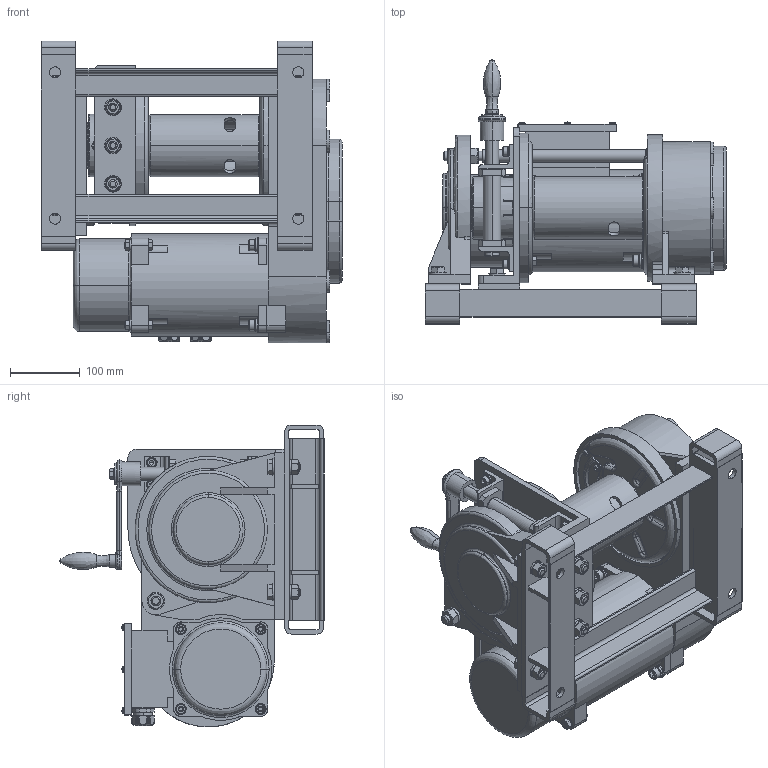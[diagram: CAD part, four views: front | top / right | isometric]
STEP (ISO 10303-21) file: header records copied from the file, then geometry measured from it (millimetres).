
FILE_DESCRIPTION( (''), '2;1');
FILE_NAME ('BMW-301-SC.stp','2023-05-12T16:55:17',(''),(''),'spGate 19.8.2 (****-****-****-****)','','');
FILE_SCHEMA (('AUTOMOTIVE_DESIGN'));
Length unit declared in the file: millimetre
Products named in the file (5): Assembly; BMW-301-SC-prt0; BMW-301-SC-prt1; BMW-301-SC-prt2; BMW-301-SC-prt3
Assembly tree (4 placements, depth 2):
  Assembly
    BMW-301-SC-prt0
    BMW-301-SC-prt1
    BMW-301-SC-prt2
    BMW-301-SC-prt3
Bounding box: 433 x 379.3 x 433.3 mm (x, y, z)
Volume: 15790235 mm3; surface area: 1448519.4 mm2
Topology: 1 solids, 1 shells, 2670 faces, 6902 edges, 4341 vertices
Faces by surface type: plane 1477, cylinder 743, bspline 408, sphere 42
Entity records: 143360 total; most frequent: CARTESIAN_POINT 25636, ORIENTED_EDGE 13712, DIRECTION 12796, COLOUR_RGB 9530, PRESENTATION_STYLE_ASSIGNMENT 9530, STYLED_ITEM 9530, EDGE_CURVE 6856, DRAUGHTING_PRE_DEFINED_CURVE_FONT 6856
